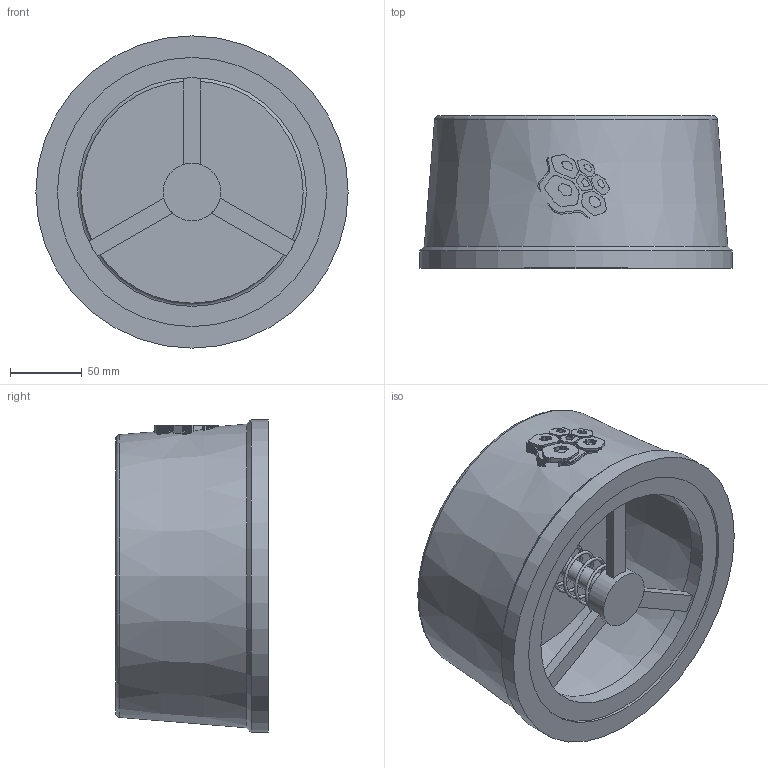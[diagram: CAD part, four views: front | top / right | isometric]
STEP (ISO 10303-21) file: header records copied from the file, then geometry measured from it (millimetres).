
FILE_DESCRIPTION(('STEP AP203'), '1');
FILE_NAME('3D_404-150-40_1', '', ('UNSPECIFIED'), ('UNSPECIFIED'), 'C3D Converter', 'C3D Toolkit', '');
FILE_SCHEMA(('CONFIG_CONTROL_DESIGN'));
Length unit declared in the file: millimetre
Bounding box: 217 x 106 x 217 mm (x, y, z)
Volume: 999419.6 mm3; surface area: 244280.5 mm2
Topology: 1 solids, 1 shells, 866 faces, 2538 edges, 1696 vertices
Faces by surface type: plane 845, cone 9, cylinder 8, torus 3, bspline 1
Full cylindrical faces by diameter (mm): 15 x1, 40 x1, 140 x1, 154.4 x1, 159 x1, 187 x2, 217 x1
Entity records: 40459 total; most frequent: CARTESIAN_POINT 12081, ORIENTED_EDGE 5044, DIRECTION 3498, EDGE_CURVE 2522, VERTEX_POINT 1695, LINE 1662, VECTOR 1662, AXIS2_PLACEMENT_3D 918
